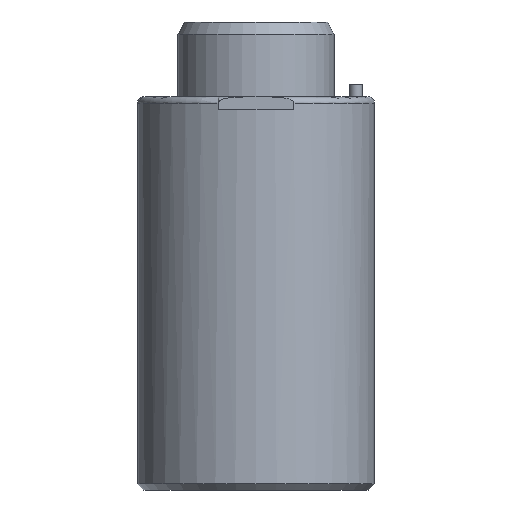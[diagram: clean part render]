
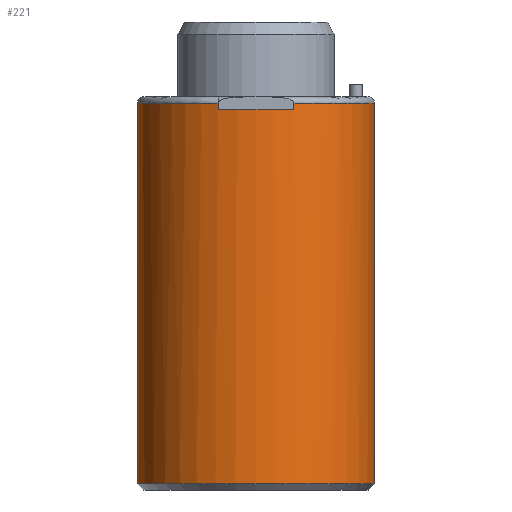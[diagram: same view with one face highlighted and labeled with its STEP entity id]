
A CAD part, left-side view. The second image highlights one B-rep face of the part: STEP entity #221.
In plain terms, the highlighted cylindrical face has radius 19 mm (diameter 38 mm), a partial arc.
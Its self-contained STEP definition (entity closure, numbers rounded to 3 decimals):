
#166=CYLINDRICAL_SURFACE('',#1086,19.);
#221=ADVANCED_FACE('',(#286),#166,.T.);
#286=FACE_OUTER_BOUND('',#358,.T.);
#358=EDGE_LOOP('',(#651,#652,#653,#654,#655,#656,#657,#658));
#371=CIRCLE('',#975,19.);
#430=CIRCLE('',#1081,19.);
#431=CIRCLE('',#1083,19.);
#432=CIRCLE('',#1085,19.);
#651=ORIENTED_EDGE('',*,*,#864,.F.);
#652=ORIENTED_EDGE('',*,*,#865,.F.);
#653=ORIENTED_EDGE('',*,*,#866,.F.);
#654=ORIENTED_EDGE('',*,*,#863,.T.);
#655=ORIENTED_EDGE('',*,*,#859,.T.);
#656=ORIENTED_EDGE('',*,*,#763,.F.);
#657=ORIENTED_EDGE('',*,*,#858,.F.);
#658=ORIENTED_EDGE('',*,*,#861,.T.);
#679=VERTEX_POINT('',#1419);
#682=VERTEX_POINT('',#1424);
#740=VERTEX_POINT('',#1625);
#742=VERTEX_POINT('',#1658);
#745=VERTEX_POINT('',#1679);
#746=VERTEX_POINT('',#1710);
#747=VERTEX_POINT('',#1714);
#748=VERTEX_POINT('',#1716);
#763=EDGE_CURVE('',#679,#682,#371,.T.);
#858=EDGE_CURVE('',#742,#679,#909,.T.);
#859=EDGE_CURVE('',#740,#682,#910,.T.);
#861=EDGE_CURVE('',#742,#745,#430,.T.);
#863=EDGE_CURVE('',#746,#740,#431,.T.);
#864=EDGE_CURVE('',#747,#745,#911,.T.);
#865=EDGE_CURVE('',#748,#747,#432,.T.);
#866=EDGE_CURVE('',#746,#748,#912,.T.);
#909=LINE('',#1666,#955);
#910=LINE('',#1667,#956);
#911=LINE('',#1713,#957);
#912=LINE('',#1717,#958);
#955=VECTOR('',#1369,1.);
#956=VECTOR('',#1370,1.);
#957=VECTOR('',#1381,1.);
#958=VECTOR('',#1384,1.);
#975=AXIS2_PLACEMENT_3D('',#1427,#1125,#1126);
#1081=AXIS2_PLACEMENT_3D('',#1680,#1373,#1374);
#1083=AXIS2_PLACEMENT_3D('',#1711,#1377,#1378);
#1085=AXIS2_PLACEMENT_3D('',#1715,#1382,#1383);
#1086=AXIS2_PLACEMENT_3D('',#1718,#1385,#1386);
#1125=DIRECTION('',(0.,0.,-1.));
#1126=DIRECTION('',(1.,0.,0.));
#1369=DIRECTION('',(0.,0.,-1.));
#1370=DIRECTION('',(0.,0.,-1.));
#1373=DIRECTION('',(0.,0.,-1.));
#1374=DIRECTION('',(1.,0.,0.));
#1377=DIRECTION('',(0.,0.,-1.));
#1378=DIRECTION('',(1.,0.,0.));
#1381=DIRECTION('',(0.,0.,1.));
#1382=DIRECTION('',(0.,0.,1.));
#1383=DIRECTION('',(-0.845,0.535,0.));
#1384=DIRECTION('',(0.,0.,-1.));
#1385=DIRECTION('',(0.,0.,-1.));
#1386=DIRECTION('',(-1.,0.,0.));
#1419=CARTESIAN_POINT('',(0.,-19.,1.));
#1424=CARTESIAN_POINT('',(0.,19.,1.));
#1427=CARTESIAN_POINT('',(0.,0.,1.));
#1625=CARTESIAN_POINT('',(0.,19.,62.));
#1658=CARTESIAN_POINT('',(0.,-19.,62.));
#1666=CARTESIAN_POINT('',(0.,-19.,1.));
#1667=CARTESIAN_POINT('',(0.,19.,1.));
#1679=CARTESIAN_POINT('',(-18.,-6.083,62.));
#1680=CARTESIAN_POINT('',(0.,0.,62.));
#1710=CARTESIAN_POINT('',(-18.,6.083,62.));
#1711=CARTESIAN_POINT('',(0.,0.,62.));
#1713=CARTESIAN_POINT('',(-18.,-6.083,63.02));
#1714=CARTESIAN_POINT('',(-18.,-6.083,61.));
#1715=CARTESIAN_POINT('',(0.,0.,61.));
#1716=CARTESIAN_POINT('',(-18.,6.083,61.));
#1717=CARTESIAN_POINT('',(-18.,6.083,63.02));
#1718=CARTESIAN_POINT('',(0.,0.,62.));
